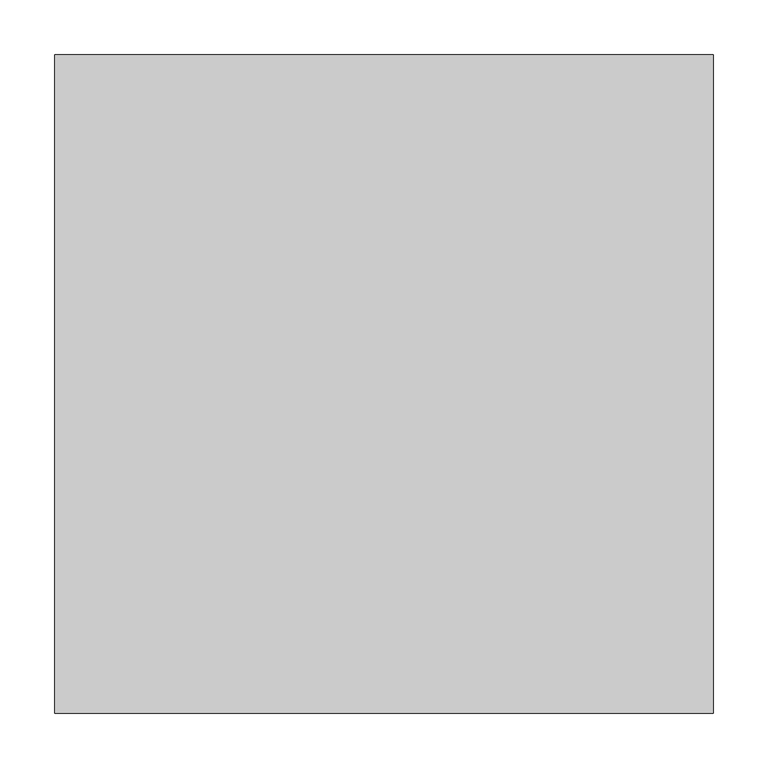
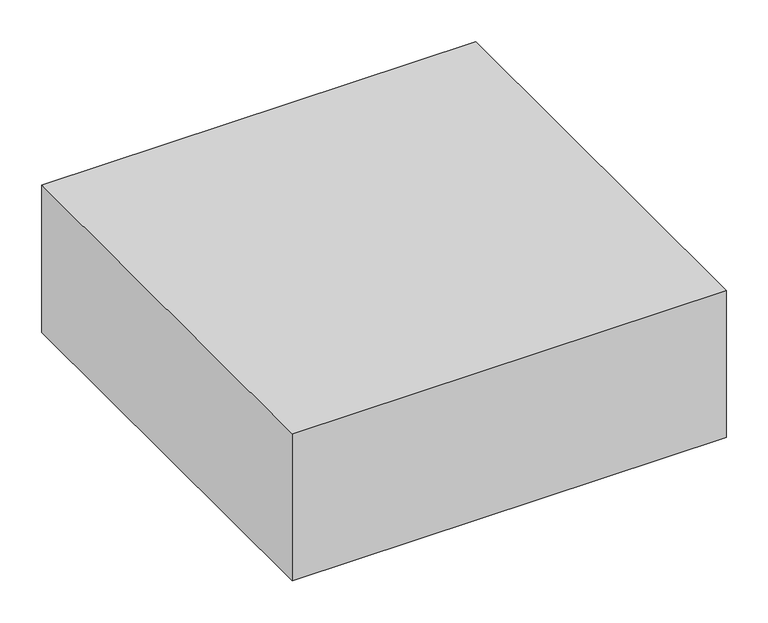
"""IFC4 building model written with IfcOpenShell, lengths in millimetres: proxy geometry, DMS-BWIC Family : BWIC_Square."""

from ifc_helpers import new_model, si_unit, frame, origin, place, context, project, spatial, polyline, outline, extrude, source, transform, mapped, element, save


def generic_models_6c32a19f(model_context):
    return source(origin(), model_context, "Body", "SweptSolid", [
        extrude(outline(polyline([(300.0, 300.0), (300.0, -300.0), (-300.0, -300.0), (-300.0, 300.0), (300.0, 300.0)])), frame((0.0, 0.0, -215.0), z_axis=(0.0, 0.0, 1.0), x_axis=(1.0, 0.0, 0.0)), (0.0, 0.0, 1.0), 215.0),
    ])


if __name__ == "__main__":
    model = new_model("IFC4")
    model_context = context("Model", 3, world=origin())
    ifc_project = project(units=[si_unit("LENGTHUNIT", "METRE", prefix="MILLI")], contexts=[model_context])
    site = spatial("IfcSite", under=ifc_project)
    building = spatial("IfcBuilding", under=site)
    placement = place(None, origin())
    generic_models_shape = generic_models_6c32a19f(model_context)
    element("IfcBuildingElementProxy", 1, Name="DMS-BWIC Family : BWIC_Square", ObjectType="DMS-BWIC Family : BWIC_Square", at=placement, inside=building, context=model_context, shape_type="MappedRepresentation", body=[
        mapped(generic_models_shape, transform((0.0, 0.0, 0.0), x_axis=(1.0, 0.0, 0.0), y_axis=(0.0, 1.0, 0.0), z_axis=(0.0, 0.0, 1.0))),
    ])
    save(model, "model.ifc")
